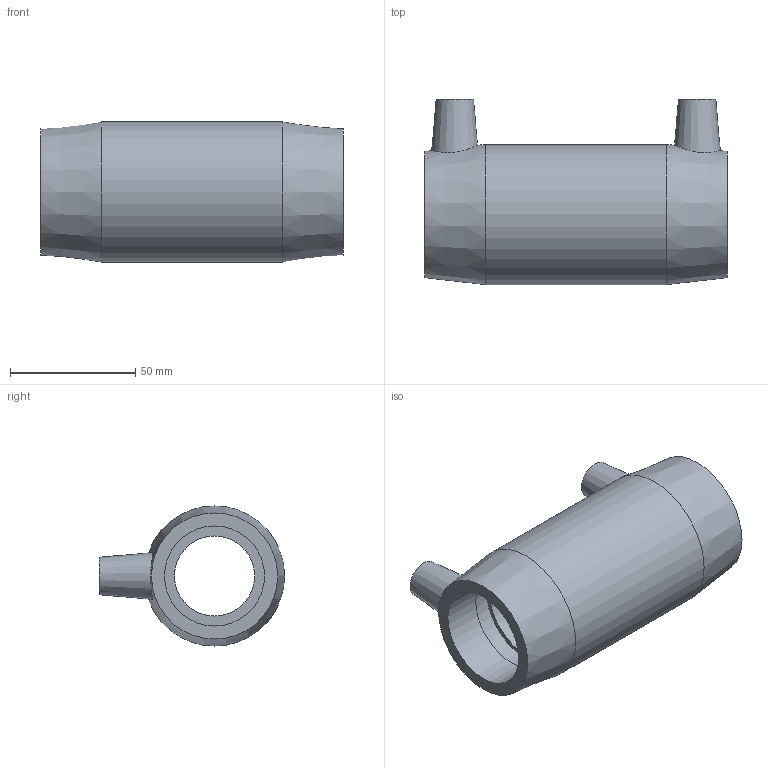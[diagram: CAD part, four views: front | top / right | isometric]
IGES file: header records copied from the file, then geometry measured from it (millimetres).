
Global section: file name: 4901L4040.ipt; native system: Autodesk Inventor 2015; preprocessor: unknown; author: KIM; date: 20171106.093601; units: millimetre
Bounding box: 121 x 74 x 56 mm (x, y, z)
Volume: 140932.8 mm3; surface area: 42092.4 mm2
Topology: 1 solids, 1 shells, 28 faces, 64 edges, 46 vertices
Faces by surface type: plane 12, revolution 9, cone 4, cylinder 3
Full cylindrical faces by diameter (mm): 4 x2, 56 x1
